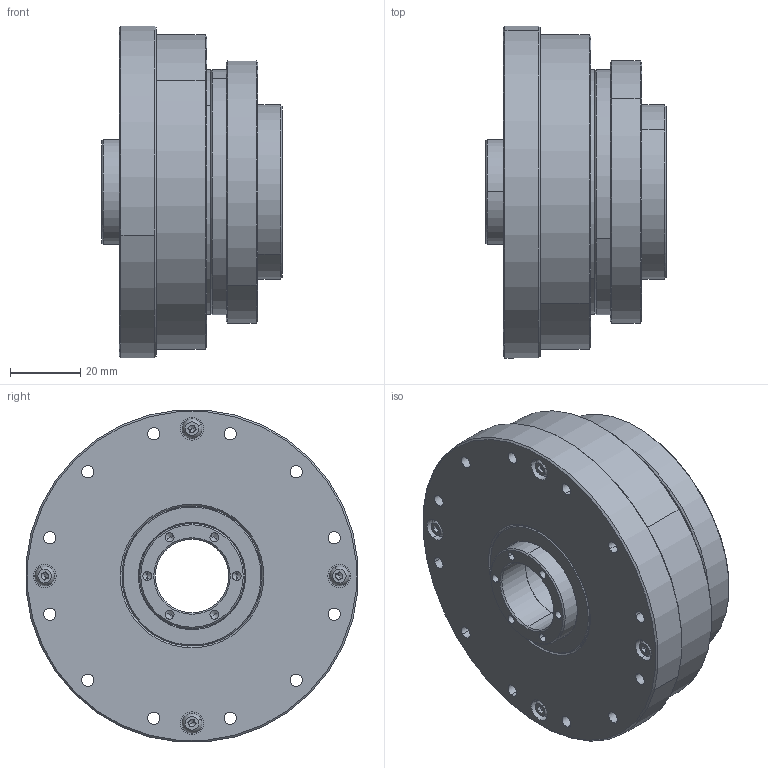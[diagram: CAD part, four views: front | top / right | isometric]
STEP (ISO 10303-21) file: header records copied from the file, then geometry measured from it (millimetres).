
FILE_DESCRIPTION (( 'STEP AP203' ), '1' );
FILE_NAME ('FHG-20-XXX-AH.STEP', '2019-04-18T12:07:39', ( '' ), ( '' ), 'SwSTEP 2.0', 'SolidWorks 2016', '' );
FILE_SCHEMA (( 'CONFIG_CONTROL_DESIGN' ));
Length unit declared in the file: millimetre
Products named in the file (1): FHG-20-XXX-AH
Bounding box: 51.5 x 94.64 x 94.64 mm (x, y, z)
Volume: 155940.4 mm3; surface area: 96308.9 mm2
Topology: 17 solids, 17 shells, 955 faces, 2203 edges, 1326 vertices
Faces by surface type: cylinder 399, cone 274, plane 244, torus 32, bspline 6
Entity records: 27281 total; most frequent: DIRECTION 5136, CARTESIAN_POINT 4745, ORIENTED_EDGE 4270, EDGE_CURVE 2135, AXIS2_PLACEMENT_3D 2057, VERTEX_POINT 1326, EDGE_LOOP 1221, CIRCLE 1107
